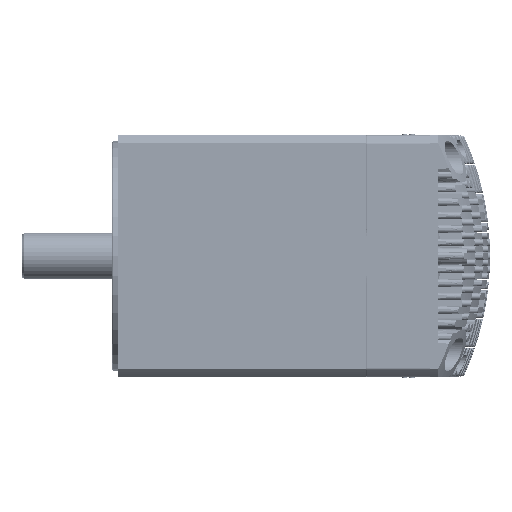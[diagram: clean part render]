
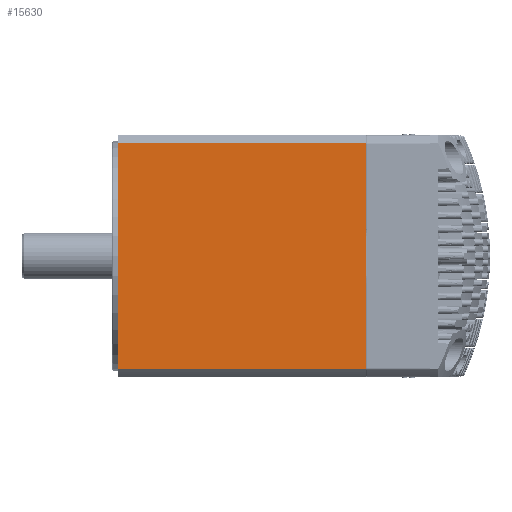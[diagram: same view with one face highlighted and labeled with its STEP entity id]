
A CAD part, front view. The second image highlights one B-rep face of the part: STEP entity #15630.
In plain terms, the highlighted planar face has unit normal (0, -1, 0).
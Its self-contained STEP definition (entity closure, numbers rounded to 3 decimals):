
#4833=DIRECTION('',(0.,0.,-1.));
#4834=VECTOR('',#4833,93.643);
#4835=CARTESIAN_POINT('',(3.5,-50.,46.821));
#4836=LINE('',#4835,#4834);
#4840=DIRECTION('',(-1.,0.,0.));
#4841=VECTOR('',#4840,102.5);
#4842=CARTESIAN_POINT('',(106.,-50.,46.821));
#4843=LINE('',#4842,#4841);
#4847=DIRECTION('',(0.,0.,-1.));
#4848=VECTOR('',#4847,93.643);
#4849=CARTESIAN_POINT('',(106.,-50.,46.821));
#4850=LINE('',#4849,#4848);
#4854=DIRECTION('',(-1.,0.,0.));
#4855=VECTOR('',#4854,102.5);
#4856=CARTESIAN_POINT('',(106.,-50.,-46.821));
#4857=LINE('',#4856,#4855);
#10394=CARTESIAN_POINT('',(106.,-50.,46.821));
#10395=CARTESIAN_POINT('',(106.,-50.,-46.821));
#10396=VERTEX_POINT('',#10394);
#10397=VERTEX_POINT('',#10395);
#10410=CARTESIAN_POINT('',(3.5,-50.,46.821));
#10411=CARTESIAN_POINT('',(3.5,-50.,-46.821));
#10412=VERTEX_POINT('',#10410);
#10413=VERTEX_POINT('',#10411);
#15619=CARTESIAN_POINT('',(0.,-50.,50.));
#15620=DIRECTION('',(0.,-1.,0.));
#15621=DIRECTION('',(0.,0.,-1.));
#15622=AXIS2_PLACEMENT_3D('',#15619,#15620,#15621);
#15623=PLANE('',#15622);
#15624=ORIENTED_EDGE('',*,*,#11649,.F.);
#15625=ORIENTED_EDGE('',*,*,#15614,.F.);
#15626=ORIENTED_EDGE('',*,*,#15518,.T.);
#15627=ORIENTED_EDGE('',*,*,#15599,.T.);
#15628=EDGE_LOOP('',(#15624,#15625,#15626,#15627));
#15629=FACE_OUTER_BOUND('',#15628,.F.);
#11649=EDGE_CURVE('',#10412,#10413,#4836,.T.);
#15518=EDGE_CURVE('',#10396,#10397,#4850,.T.);
#15599=EDGE_CURVE('',#10397,#10413,#4857,.T.);
#15614=EDGE_CURVE('',#10396,#10412,#4843,.T.);
#15630=ADVANCED_FACE('',(#15629),#15623,.T.);
